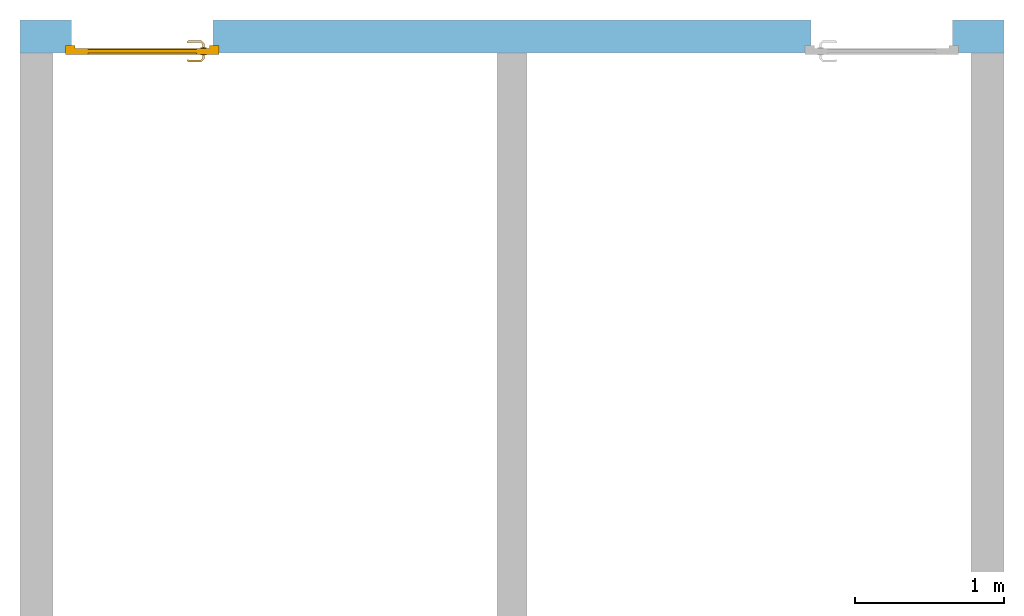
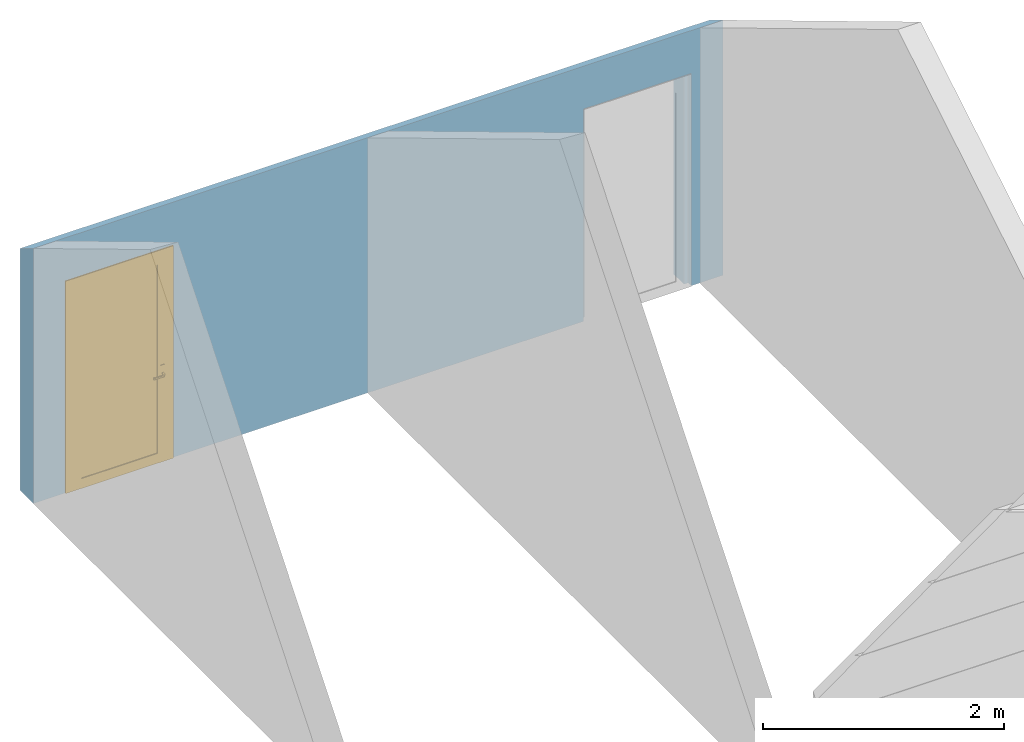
# One storey, part 2 of 3: 1 door, 2 openings, plus 1 element that does not belong to this part.
"""IFC2X3 building model written with IfcOpenShell, lengths in metres."""

from ifc_helpers import new_model, entity, si_unit, converted_unit, derived_unit, direction, frame, frame_2d, origin, place, context, subcontext, project, spatial, polyline, rectangle, extrude, clip, bounded_halfspace, faceted_brep, source, transform, mapped, material, material_list, layer, layer_set, layer_usage, type_object, type_shapes, element, fill, save


model = new_model("IFC2X3")

# Units and contexts
model_context = context("Model", 3, precision=1e-05, world=origin(), true_north=direction((6.12303176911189e-17, 1.0)))
body_context = subcontext(model_context, "Body", "Model", "MODEL_VIEW")
ifc_project = project(units=[si_unit("LENGTHUNIT", "METRE"), si_unit("AREAUNIT", "SQUARE_METRE"), si_unit("VOLUMEUNIT", "CUBIC_METRE"), converted_unit("PLANEANGLEUNIT", "DEGREE", entity("IfcRatioMeasure", 0.0174532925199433), si_unit("PLANEANGLEUNIT", "RADIAN"), dimensions=[0, 0, 0, 0, 0, 0, 0]), si_unit("MASSUNIT", "GRAM", prefix="KILO"), si_unit("TIMEUNIT", "SECOND"), si_unit("FREQUENCYUNIT", "HERTZ"), si_unit("THERMODYNAMICTEMPERATUREUNIT", "DEGREE_CELSIUS"), derived_unit("THERMALTRANSMITTANCEUNIT", [(si_unit("MASSUNIT", "GRAM", prefix="KILO"), 1), (si_unit("THERMODYNAMICTEMPERATUREUNIT", "KELVIN"), -1), (si_unit("TIMEUNIT", "SECOND"), -3)]), derived_unit("VOLUMETRICFLOWRATEUNIT", [(si_unit("LENGTHUNIT", "METRE"), 3), (si_unit("TIMEUNIT", "SECOND"), -1)]), si_unit("ELECTRICCURRENTUNIT", "AMPERE"), si_unit("ELECTRICVOLTAGEUNIT", "VOLT"), si_unit("POWERUNIT", "WATT"), si_unit("FORCEUNIT", "NEWTON", prefix="KILO"), si_unit("ILLUMINANCEUNIT", "LUX"), si_unit("LUMINOUSFLUXUNIT", "LUMEN"), si_unit("LUMINOUSINTENSITYUNIT", "CANDELA"), derived_unit("USERDEFINED", [(si_unit("MASSUNIT", "GRAM", prefix="KILO"), -1), (si_unit("LENGTHUNIT", "METRE"), -2), (si_unit("TIMEUNIT", "SECOND"), 3), (si_unit("LUMINOUSFLUXUNIT", "LUMEN"), 1)]), derived_unit("LINEARVELOCITYUNIT", [(si_unit("LENGTHUNIT", "METRE"), 1), (si_unit("TIMEUNIT", "SECOND"), -1)]), si_unit("PRESSUREUNIT", "PASCAL"), derived_unit("USERDEFINED", [(si_unit("LENGTHUNIT", "METRE"), -2), (si_unit("MASSUNIT", "GRAM", prefix="KILO"), 1), (si_unit("TIMEUNIT", "SECOND"), -2)])], contexts=[model_context])

# Site, building, storey
site_placement = place(None, origin())
site = spatial("IfcSite", under=ifc_project, at=site_placement, Name="Surface", CompositionType="ELEMENT")
building_placement = place(site_placement, origin())
building = spatial("IfcBuilding", under=site, at=building_placement, CompositionType="ELEMENT")
storey_placement = place(building_placement, origin())
storey = spatial("IfcBuildingStorey", under=building, at=storey_placement, Name="Rez de chaussée", CompositionType="ELEMENT", Elevation=0.0)

# Wall, openings, door
ifc_material_1 = material(Name="Maçonnerie - Enduit")
ifc_layer_1 = layer(ifc_material_1, 0.02)
ifc_material_2 = material(Name="Maçonnerie - Béton")
ifc_layer_2 = layer(ifc_material_2, 0.2)
ifc_layer_set = layer_set([ifc_layer_1, ifc_layer_2], Name="Mur de base:Ext.BBM + enduit 22")
ifc_layer_usage = layer_usage(ifc_layer_set, "AXIS2", "NEGATIVE", 0.11)
wall_type = type_object("IfcWallType", Name="Mur de base:Ext.BBM + enduit 22", PredefinedType="STANDARD", material=ifc_layer_set)
wall_placement = place(storey_placement, frame((-3.58506493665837, -14.0835833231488, 0.0)))
wall = element("IfcWallStandardCase", 1, at=wall_placement, inside=storey, type_object=wall_type, material=ifc_layer_usage, Name="Mur de base:Ext.BBM + enduit 22", ObjectType="Mur de base:Ext.BBM + enduit 22", context=body_context, shape_type="Clipping", body=[
    clip(extrude(rectangle(XDim=6.60000000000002, YDim=0.220000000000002, at=frame_2d((3.30000000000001, -2.70616862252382e-16), x_axis=(-1.0, 0.0))), origin(), (0.0, 0.0, 1.0), 2.58218933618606), bounded_halfspace(frame((0.0, -0.109999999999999, 2.58218933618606), z_axis=(0.0, 0.515038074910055, 0.857167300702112), x_axis=(-1.0, 0.0, 0.0)), False, frame((0.0, -0.109999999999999, 2.58218933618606)), polyline([(0.0, 0.0), (0.22, 0.0), (3.2, 0.0), (3.4, 0.0), (6.38000000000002, 0.0), (6.60000000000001, 0.0), (6.60000000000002, 0.219999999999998), (0.0, 0.22), (0.0, 0.0)]))),
])
opening_1_placement = place(wall_placement, frame((0.305000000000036, -0.410000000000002, 0.0)))
opening_1 = element("IfcOpeningElement", 2, at=opening_1_placement, cuts=wall, Name="Mur de base:Ext.BBM + enduit 22", ObjectType="Opening", context=body_context, shape_type="Brep", body=[
    faceted_brep([(0.98999999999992, 0.820000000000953, 2.11000000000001), (0.0400000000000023, 0.820000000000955, 2.11000000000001), (0.0400000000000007, 0.350000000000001, 2.11000000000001), (0.989999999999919, 0.349999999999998, 2.11000000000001), (0.0400000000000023, 0.820000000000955, 0.0), (0.98999999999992, 0.820000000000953, 0.0), (0.989999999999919, 0.349999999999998, 0.0), (1.02999999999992, 0.349999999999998, 0.0), (1.02999999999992, 0.299999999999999, 0.0), (0.989999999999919, 0.299999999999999, 0.0), (0.989999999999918, 0.0, 0.0), (0.0399999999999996, 0.0, 0.0), (0.0400000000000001, 0.300000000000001, 0.0), (0.0, 0.300000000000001, 0.0), (0.0, 0.350000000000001, 0.0), (0.0400000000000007, 0.350000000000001, 0.0), (0.989999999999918, 0.0, 2.11000000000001), (0.0399999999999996, 0.0, 2.11000000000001), (1.02999999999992, 0.299999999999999, 2.15000000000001), (0.0, 0.300000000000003, 2.15000000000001), (0.0400000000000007, 0.300000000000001, 2.11000000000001), (0.989999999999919, 0.299999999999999, 2.11000000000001), (1.02999999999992, 0.349999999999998, 2.15000000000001), (0.0, 0.350000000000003, 2.15000000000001)], [[[0, 1, 2, 3]], [[4, 5, 6, 7, 8, 9, 10, 11, 12, 13, 14, 15]], [[1, 0, 5, 4]], [[5, 0, 3, 6]], [[16, 17, 11, 10]], [[1, 4, 15, 2]], [[9, 8, 18, 19, 13, 12, 20, 21]], [[8, 7, 22, 18]], [[7, 6, 3, 2, 15, 14, 23, 22]], [[19, 18, 22, 23]], [[13, 19, 23, 14]], [[11, 17, 20, 12]], [[16, 10, 9, 21]], [[17, 16, 21, 20]]]),
])
opening_2_placement = place(wall_placement, frame((5.26500000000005, -0.41000000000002, 0.0)))
element("IfcOpeningElement", 3, at=opening_2_placement, cuts=wall, Name="Mur de base:Ext.BBM + enduit 22", ObjectType="Opening", context=body_context, shape_type="Brep", body=[
    faceted_brep([(0.989999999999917, 0.0, 2.11000000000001), (0.989999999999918, 0.299999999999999, 2.11000000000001), (0.0399999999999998, 0.300000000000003, 2.11000000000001), (0.039999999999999, 0.0, 2.11000000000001), (0.98999999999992, 0.820000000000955, 0.0), (0.989999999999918, 0.350000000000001, 0.0), (1.02999999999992, 0.349999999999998, 0.0), (1.02999999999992, 0.299999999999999, 0.0), (0.989999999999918, 0.299999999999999, 0.0), (0.989999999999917, 0.0, 0.0), (0.039999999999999, 0.0, 0.0), (0.0399999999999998, 0.300000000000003, 0.0), (0.0, 0.300000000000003, 0.0), (0.0, 0.350000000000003, 0.0), (0.0399999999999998, 0.350000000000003, 0.0), (0.0400000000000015, 0.820000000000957, 0.0), (0.98999999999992, 0.820000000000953, 2.11000000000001), (0.0400000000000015, 0.820000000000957, 2.11000000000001), (0.989999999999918, 0.350000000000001, 2.11000000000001), (1.02999999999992, 0.299999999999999, 2.15000000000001), (0.0, 0.300000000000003, 2.15000000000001), (0.0, 0.350000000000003, 2.15000000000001), (1.02999999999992, 0.349999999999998, 2.15000000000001), (0.0399999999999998, 0.350000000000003, 2.11000000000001)], [[[0, 1, 2, 3]], [[4, 5, 6, 7, 8, 9, 10, 11, 12, 13, 14, 15]], [[16, 4, 15, 17]], [[3, 2, 11, 10]], [[3, 10, 9, 0]], [[16, 18, 5, 4]], [[11, 2, 1, 8, 7, 19, 20, 12]], [[12, 20, 21, 13]], [[13, 21, 22, 6, 5, 18, 23, 14]], [[19, 22, 21, 20]], [[7, 6, 22, 19]], [[9, 8, 1, 0]], [[15, 14, 23, 17]], [[17, 23, 18, 16]]]),
])
ifc_material_3 = material(Name="Poignée PVC")
ifc_material_4 = material(Name="PVC Blanc")
ifc_material_list_1 = material_list([ifc_material_3, ifc_material_4])
ifc_material_list_2 = material_list([ifc_material_3, ifc_material_4])
door_style = type_object("IfcDoorStyle", Name="93 x 210 - (90)", ConstructionType="NOTDEFINED", OperationType="SINGLE_SWING_RIGHT", ParameterTakesPrecedence=False, Sizeable=False, material=ifc_material_list_2)
shared_shape = source(origin(), body_context, "Body", "Brep", [
    faceted_brep([(0.927025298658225, -0.27258714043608, 0.907780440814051), (0.922974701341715, -0.27258714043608, 0.907780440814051), (0.918999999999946, -0.27258714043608, 0.90699999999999), (0.918999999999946, -0.27258714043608, 0.89300000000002), (0.922974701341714, -0.27258714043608, 0.892219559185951), (0.927025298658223, -0.27258714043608, 0.892219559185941), (0.930999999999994, -0.27258714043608, 0.892999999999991), (0.930999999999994, -0.27258714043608, 0.90699999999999), (0.918999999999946, -0.250101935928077, 0.90699999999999), (0.918999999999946, -0.250101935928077, 0.89300000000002), (0.922974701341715, -0.248455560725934, 0.907780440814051), (0.927025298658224, -0.246777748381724, 0.907780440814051), (0.910838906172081, -0.230591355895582, 0.907780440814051), (0.909161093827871, -0.234641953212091, 0.907780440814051), (0.825793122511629, -0.234641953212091, 0.907780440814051), (0.824115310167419, -0.230591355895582, 0.907780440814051), (0.81645104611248, -0.238255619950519, 0.907780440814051), (0.819315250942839, -0.241119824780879, 0.907780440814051), (0.930999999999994, -0.24513137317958, 0.90699999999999), (0.930999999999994, -0.24513137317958, 0.892999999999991), (0.927025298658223, -0.246777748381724, 0.892219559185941), (0.922974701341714, -0.248455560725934, 0.892219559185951), (0.90916109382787, -0.234641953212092, 0.892219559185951), (0.910838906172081, -0.230591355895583, 0.892219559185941), (0.824115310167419, -0.230591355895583, 0.89221955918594), (0.825793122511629, -0.234641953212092, 0.89221955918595), (0.81931525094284, -0.24111982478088, 0.89221955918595), (0.816451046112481, -0.23825561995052, 0.89221955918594), (0.907514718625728, -0.23861665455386, 0.89300000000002), (0.907514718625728, -0.23861665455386, 0.90699999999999), (0.912485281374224, -0.226616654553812, 0.90699999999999), (0.912485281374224, -0.226616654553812, 0.892999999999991), (0.86747710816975, -0.23861665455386, 0.90699999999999), (0.827439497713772, -0.23861665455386, 0.90699999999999), (0.827439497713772, -0.23861665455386, 0.89300000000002), (0.86747710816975, -0.23861665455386, 0.89300000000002), (0.867477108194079, -0.232462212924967, 0.907878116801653), (0.862399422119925, -0.226616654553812, 0.90699999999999), (0.822468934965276, -0.226616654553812, 0.90699999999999), (0.872554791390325, -0.226616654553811, 0.892999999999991), (0.822468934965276, -0.226616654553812, 0.892999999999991), (0.86747710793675, -0.232462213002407, 0.892121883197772), (0.813640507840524, -0.235445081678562, 0.90699999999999), (0.813640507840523, -0.235445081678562, 0.892999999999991), (0.822125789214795, -0.243930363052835, 0.89300000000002), (0.822125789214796, -0.243930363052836, 0.90699999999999)], [[[0, 1, 2, 3, 4, 5, 6, 7]], [[8, 9, 3, 2]], [[1, 10, 8, 2]], [[1, 0, 11, 12, 13, 10]], [[14, 15, 16, 17]], [[7, 18, 11, 0]], [[18, 7, 6, 19]], [[6, 5, 20, 19]], [[5, 4, 21, 22, 23, 20]], [[24, 25, 26, 27]], [[4, 3, 9, 21]], [[28, 9, 8, 29]], [[8, 10, 13, 29]], [[18, 30, 12, 11]], [[31, 30, 18, 19]], [[19, 20, 23, 31]], [[21, 9, 28, 22]], [[28, 29, 32, 33, 34, 35]], [[36, 32, 13]], [[37, 38, 15]], [[37, 12, 30]], [[36, 12, 37]], [[14, 32, 36]], [[36, 15, 14]], [[29, 13, 32]], [[32, 14, 33]], [[12, 36, 13]], [[15, 36, 37]], [[30, 31, 39, 40, 38, 37]], [[23, 41, 39]], [[24, 39, 41]], [[39, 31, 23]], [[39, 24, 40]], [[22, 35, 41]], [[41, 23, 22]], [[41, 35, 25]], [[35, 22, 28]], [[34, 25, 35]], [[24, 41, 25]], [[17, 16, 42, 43, 27, 26, 44, 45]], [[44, 34, 33, 45]], [[33, 14, 17, 45]], [[15, 38, 42, 16]], [[42, 38, 40, 43]], [[24, 27, 43, 40]], [[34, 44, 26, 25]]]),
    faceted_brep([(0.922974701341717, -0.32258714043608, 0.907780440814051), (0.927025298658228, -0.32258714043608, 0.907780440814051), (0.930999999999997, -0.32258714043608, 0.906999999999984), (0.930999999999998, -0.32258714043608, 0.892999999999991), (0.927025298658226, -0.32258714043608, 0.892219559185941), (0.922974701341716, -0.32258714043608, 0.89221955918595), (0.918999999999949, -0.32258714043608, 0.893000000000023), (0.918999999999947, -0.32258714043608, 0.90699999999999), (0.927025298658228, -0.348591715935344, 0.907780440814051), (0.930999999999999, -0.350238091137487, 0.906999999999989), (0.922974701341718, -0.346913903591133, 0.907780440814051), (0.909298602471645, -0.360590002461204, 0.907780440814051), (0.910976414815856, -0.364640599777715, 0.907780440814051), (0.824142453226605, -0.364640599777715, 0.90778044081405), (0.825820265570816, -0.360590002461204, 0.90778044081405), (0.819342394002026, -0.354112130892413, 0.90778044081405), (0.816478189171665, -0.356976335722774, 0.90778044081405), (0.918999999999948, -0.345267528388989, 0.90699999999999), (0.918999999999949, -0.34526752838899, 0.893000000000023), (0.922974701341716, -0.346913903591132, 0.89221955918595), (0.927025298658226, -0.348591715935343, 0.89221955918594), (0.910976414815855, -0.364640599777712, 0.89221955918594), (0.909298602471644, -0.360590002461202, 0.89221955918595), (0.825820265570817, -0.360590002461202, 0.89221955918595), (0.824142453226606, -0.364640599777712, 0.89221955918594), (0.816478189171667, -0.356976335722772, 0.89221955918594), (0.819342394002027, -0.354112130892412, 0.89221955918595), (0.930999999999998, -0.350238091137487, 0.892999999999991), (0.912622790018, -0.368615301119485, 0.906999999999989), (0.907652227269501, -0.356615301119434, 0.90699999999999), (0.907652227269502, -0.356615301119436, 0.893000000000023), (0.912622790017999, -0.368615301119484, 0.892999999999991), (0.86755943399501, -0.362769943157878, 0.907878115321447), (0.872692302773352, -0.368615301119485, 0.906999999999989), (0.822496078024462, -0.368615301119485, 0.906999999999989), (0.867559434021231, -0.356615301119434, 0.90699999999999), (0.82746664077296, -0.356615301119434, 0.906999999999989), (0.867559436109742, -0.356615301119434, 0.893000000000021), (0.82746664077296, -0.356615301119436, 0.893000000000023), (0.867559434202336, -0.362769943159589, 0.892121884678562), (0.862426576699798, -0.368615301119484, 0.892999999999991), (0.822496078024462, -0.368615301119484, 0.892999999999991), (0.822152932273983, -0.351301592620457, 0.89300000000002), (0.813667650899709, -0.359786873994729, 0.892999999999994), (0.813667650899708, -0.35978687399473, 0.906999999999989), (0.822152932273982, -0.351301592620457, 0.906999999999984)], [[[0, 1, 2, 3, 4, 5, 6, 7]], [[2, 1, 8, 9]], [[1, 0, 10, 11, 12, 8]], [[13, 14, 15, 16]], [[0, 7, 17, 10]], [[18, 17, 7, 6]], [[5, 19, 18, 6]], [[5, 4, 20, 21, 22, 19]], [[23, 24, 25, 26]], [[3, 27, 20, 4]], [[9, 27, 3, 2]], [[9, 8, 12, 28]], [[10, 17, 29, 11]], [[30, 29, 17, 18]], [[18, 19, 22, 30]], [[20, 27, 31, 21]], [[28, 31, 27, 9]], [[12, 32, 33]], [[13, 33, 32]], [[33, 28, 12]], [[33, 13, 34]], [[11, 35, 32]], [[32, 12, 11]], [[32, 35, 14]], [[35, 11, 29]], [[36, 14, 35]], [[13, 32, 14]], [[30, 37, 38, 36, 35, 29]], [[39, 37, 22]], [[40, 41, 24]], [[40, 21, 31]], [[39, 21, 40]], [[23, 37, 39]], [[39, 24, 23]], [[30, 22, 37]], [[37, 23, 38]], [[21, 39, 22]], [[24, 39, 40]], [[31, 28, 33, 34, 41, 40]], [[42, 26, 25, 43, 44, 16, 15, 45]], [[13, 16, 44, 34]], [[36, 45, 15, 14]], [[42, 45, 36, 38]], [[38, 23, 26, 42]], [[24, 41, 43, 25]], [[44, 43, 41, 34]]]),
    faceted_brep([(0.944999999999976, -0.27758714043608, 0.770000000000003), (0.944999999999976, -0.27758714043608, 0.980000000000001), (0.935352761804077, -0.27758714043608, 0.983996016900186), (0.924999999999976, -0.27758714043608, 0.985358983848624), (0.914647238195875, -0.27758714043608, 0.983996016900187), (0.904999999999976, -0.27758714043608, 0.980000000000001), (0.904999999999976, -0.27758714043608, 0.770000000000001), (0.914647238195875, -0.27758714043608, 0.766003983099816), (0.924999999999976, -0.27758714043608, 0.764641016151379), (0.935352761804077, -0.27758714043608, 0.766003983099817), (0.924999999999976, -0.27258714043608, 0.985358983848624), (0.935352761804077, -0.27258714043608, 0.983996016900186), (0.944999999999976, -0.27258714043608, 0.980000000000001), (0.944999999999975, -0.27258714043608, 0.770000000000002), (0.935352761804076, -0.27258714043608, 0.766003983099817), (0.924999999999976, -0.27258714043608, 0.764641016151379), (0.914647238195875, -0.27258714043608, 0.766003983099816), (0.904999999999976, -0.27258714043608, 0.770000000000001), (0.904999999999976, -0.27258714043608, 0.980000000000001), (0.914647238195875, -0.27258714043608, 0.983996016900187)], [[[0, 1, 2, 3, 4, 5, 6, 7, 8, 9]], [[10, 11, 12, 13, 14, 15, 16, 17, 18, 19]], [[4, 19, 18, 5]], [[3, 10, 19, 4]], [[2, 11, 10, 3]], [[2, 1, 12, 11]], [[12, 1, 0, 13]], [[9, 14, 13, 0]], [[8, 15, 14, 9]], [[7, 16, 15, 8]], [[7, 6, 17, 16]], [[17, 6, 5, 18]]]),
    faceted_brep([(0.924999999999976, -0.32258714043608, 0.764641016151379), (0.935352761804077, -0.32258714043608, 0.766003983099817), (0.944999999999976, -0.32258714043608, 0.770000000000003), (0.944999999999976, -0.32258714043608, 0.980000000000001), (0.935352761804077, -0.32258714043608, 0.983996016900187), (0.924999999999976, -0.32258714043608, 0.985358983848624), (0.914647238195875, -0.32258714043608, 0.983996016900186), (0.904999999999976, -0.32258714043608, 0.980000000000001), (0.904999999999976, -0.32258714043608, 0.770000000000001), (0.914647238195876, -0.32258714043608, 0.766003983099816), (0.944999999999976, -0.31758714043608, 0.980000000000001), (0.944999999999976, -0.31758714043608, 0.770000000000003), (0.935352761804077, -0.31758714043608, 0.766003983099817), (0.924999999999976, -0.31758714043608, 0.764641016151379), (0.914647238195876, -0.31758714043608, 0.766003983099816), (0.904999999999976, -0.31758714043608, 0.770000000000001), (0.904999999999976, -0.31758714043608, 0.980000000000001), (0.914647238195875, -0.31758714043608, 0.983996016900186), (0.924999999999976, -0.31758714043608, 0.985358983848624), (0.935352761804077, -0.31758714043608, 0.983996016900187)], [[[0, 1, 2, 3, 4, 5, 6, 7, 8, 9]], [[10, 11, 12, 13, 14, 15, 16, 17, 18, 19]], [[1, 12, 11, 2]], [[0, 13, 12, 1]], [[9, 14, 13, 0]], [[9, 8, 15, 14]], [[15, 8, 7, 16]], [[6, 17, 16, 7]], [[5, 18, 17, 6]], [[4, 19, 18, 5]], [[4, 3, 10, 19]], [[10, 3, 2, 11]]]),
    faceted_brep([(1.02999999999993, -0.31758714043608, 0.0), (0.979999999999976, -0.31758714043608, 0.0), (0.979999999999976, -0.27758714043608, 0.0), (0.964999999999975, -0.27758714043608, 0.0), (0.964999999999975, -0.25758714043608, 0.0), (1.02999999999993, -0.25758714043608, 0.0), (1.02999999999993, -0.25758714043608, 2.15000000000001), (1.02999999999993, -0.31758714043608, 2.15000000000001), (0.964999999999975, -0.25758714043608, 2.08500000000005), (0.0649999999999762, -0.25758714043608, 2.08500000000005), (0.0649999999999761, -0.25758714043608, 0.0), (0.0, -0.25758714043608, 0.0), (0.0, -0.25758714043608, 2.15000000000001), (0.964999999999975, -0.27758714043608, 2.08500000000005), (0.979999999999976, -0.27758714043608, 2.10000000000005), (0.0499999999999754, -0.27758714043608, 2.10000000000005), (0.0499999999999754, -0.27758714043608, 0.0), (0.0649999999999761, -0.27758714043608, 0.0), (0.0649999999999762, -0.27758714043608, 2.08500000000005), (0.979999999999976, -0.31758714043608, 2.10000000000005), (0.0, -0.31758714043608, 2.15000000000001), (0.0, -0.31758714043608, 0.0), (0.0499999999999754, -0.31758714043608, 0.0), (0.0499999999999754, -0.31758714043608, 2.10000000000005)], [[[0, 1, 2, 3, 4, 5]], [[5, 6, 7, 0]], [[4, 8, 9, 10, 11, 12, 6, 5]], [[3, 13, 8, 4]], [[2, 14, 15, 16, 17, 18, 13, 3]], [[1, 19, 14, 2]], [[0, 7, 20, 21, 22, 23, 19, 1]], [[11, 21, 20, 12]], [[10, 17, 16, 22, 21, 11]], [[9, 18, 17, 10]], [[15, 23, 22, 16]], [[6, 12, 20, 7]], [[8, 13, 18, 9]], [[14, 19, 23, 15]]]),
    faceted_brep([(0.979999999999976, -0.31758714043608, 2.10000000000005), (0.0499999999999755, -0.31758714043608, 2.10000000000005), (0.0499999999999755, -0.31758714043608, 0.0), (0.979999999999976, -0.31758714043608, 0.0), (0.149999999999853, -0.31758714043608, 2.01000000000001), (0.879999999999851, -0.31758714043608, 2.01000000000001), (0.879999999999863, -0.31758714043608, 0.0999999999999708), (0.149999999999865, -0.31758714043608, 0.0999999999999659), (0.979999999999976, -0.27758714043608, 2.10000000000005), (0.979999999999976, -0.27758714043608, 0.0), (0.0499999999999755, -0.27758714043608, 0.0), (0.0499999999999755, -0.27758714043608, 2.10000000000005), (0.879999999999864, -0.27758714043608, 2.01000000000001), (0.149999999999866, -0.27758714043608, 2.01000000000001), (0.149999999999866, -0.27758714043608, 0.100000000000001), (0.879999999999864, -0.27758714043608, 0.100000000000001), (0.149999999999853, -0.30958714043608, 2.01000000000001), (0.149999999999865, -0.30958714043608, 0.0999999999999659), (0.879999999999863, -0.30958714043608, 0.0999999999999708), (0.879999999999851, -0.30958714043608, 2.01000000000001), (0.879999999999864, -0.28558714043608, 2.01000000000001), (0.879999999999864, -0.28558714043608, 0.100000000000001), (0.149999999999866, -0.28558714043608, 0.100000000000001), (0.149999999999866, -0.28558714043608, 2.01000000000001)], [[[0, 1, 2, 3], [4, 5, 6, 7]], [[8, 9, 10, 11], [12, 13, 14, 15]], [[3, 9, 8, 0]], [[2, 10, 9, 3]], [[1, 11, 10, 2]], [[0, 8, 11, 1]], [[16, 17, 18, 19]], [[16, 4, 7, 17]], [[17, 7, 6, 18]], [[18, 6, 5, 19]], [[19, 5, 4, 16]], [[20, 21, 22, 23]], [[20, 12, 15, 21]], [[21, 15, 14, 22]], [[22, 14, 13, 23]], [[23, 13, 12, 20]]]),
])
type_shapes(door_style, [shared_shape])
door_placement = place(opening_1_placement, frame((0.0, 0.607587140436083, 0.0)))
door = element("IfcDoor", 4, at=door_placement, inside=storey, type_object=door_style, material=ifc_material_list_1, Name="FR_PVC Panneau Plein:93 x 210 - (90)", ObjectType="93 x 210 - (90)", OverallHeight=2.15000000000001, OverallWidth=1.02999999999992, context=body_context, shape_type="MappedRepresentation", body=[
    mapped(shared_shape, transform((0.0, 0.0, 0.0), scale=1.0)),
])
fill(opening_1, door)

save(model, "model.ifc")
